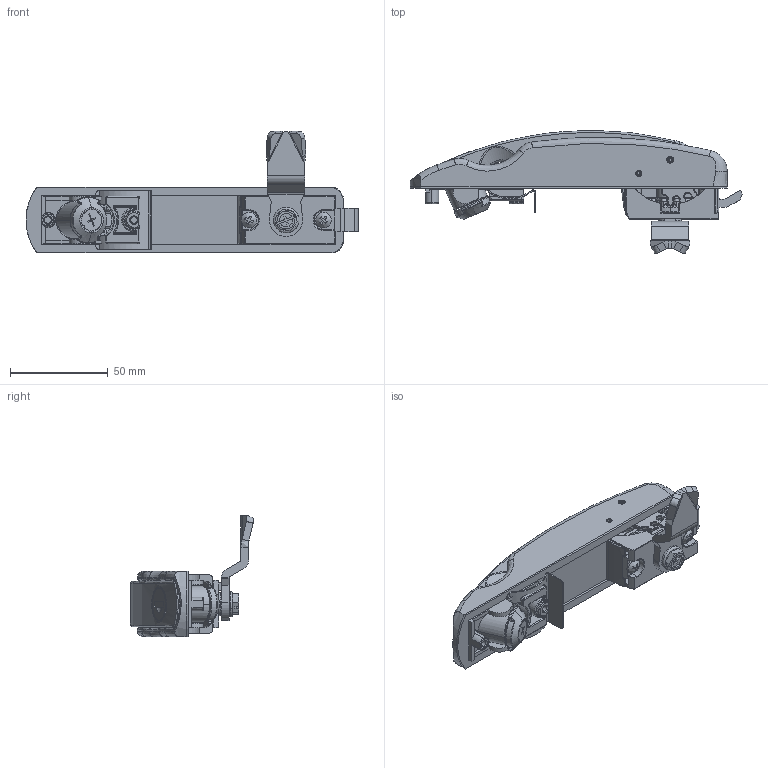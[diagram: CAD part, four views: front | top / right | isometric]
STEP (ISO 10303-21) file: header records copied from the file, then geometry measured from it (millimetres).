
FILE_DESCRIPTION (( 'STEP AP203' ), '1' );
FILE_NAME ('pklh3.STEP', '2021-05-13T17:21:43', ( '' ), ( '' ), 'SwSTEP 2.0', 'SolidWorks 2016', '' );
FILE_SCHEMA (( 'CONFIG_CONTROL_DESIGN' ));
Length unit declared in the file: millimetre
Products named in the file (2): 89183809; pklh3
Assembly tree (1 placements, depth 2):
  pklh3
    89183809
Bounding box: 169.54 x 62.86 x 62.19 mm (x, y, z)
Surface area: 64956.6 mm2 (no closed solid volume)
Topology: 0 solids, 20 shells, 2078 faces, 5358 edges, 3281 vertices
Faces by surface type: plane 702, bspline 639, cylinder 637, cone 91, torus 9
Entity records: 86348 total; most frequent: CARTESIAN_POINT 39846, ORIENTED_EDGE 10550, DIRECTION 8620, EDGE_CURVE 5277, VERTEX_POINT 3281, AXIS2_PLACEMENT_3D 3075, LINE 2470, VECTOR 2470
